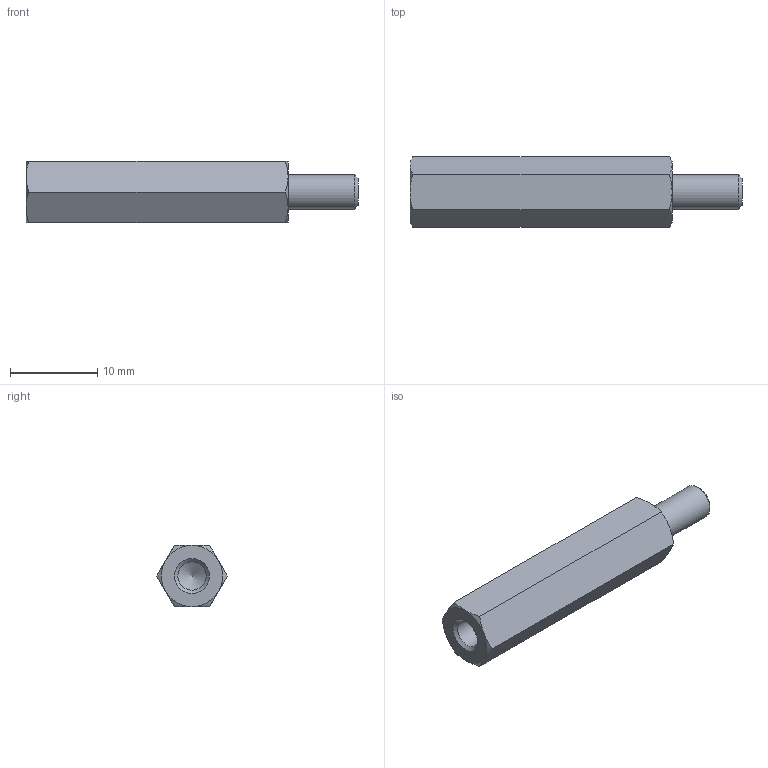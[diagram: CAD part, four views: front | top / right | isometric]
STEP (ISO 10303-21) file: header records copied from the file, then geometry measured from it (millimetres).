
FILE_DESCRIPTION( ( 'STEP AP203' ), '1' );
FILE_NAME( 'C:/Temp/Ganter_Step_05_03_2020/data/3_2/gn6220/gn6220_st/Spacer GN 6220-ST-M4-30-B.stp', '2020-03-13T05:42:40', ( 'License CC BY-ND 4.0' ), ( 'CADENAS' ), ' ', 'PARTsolutions', ' ' );
FILE_SCHEMA( ( 'CONFIG_CONTROL_DESIGN' ) );
Length unit declared in the file: millimetre
Products named in the file (1): _Spacer GN 6220-ST-M4-30-B
Bounding box: 38 x 8.08 x 7 mm (x, y, z)
Volume: 1254.4 mm3; surface area: 1045.3 mm2
Topology: 1 solids, 1 shells, 26 faces, 55 edges, 32 vertices
Faces by surface type: cone 15, plane 9, cylinder 2
Full cylindrical faces by diameter (mm): 3.242 x1, 4 x1
Entity records: 746 total; most frequent: CARTESIAN_POINT 210, DIRECTION 96, ORIENTED_EDGE 96, EDGE_CURVE 48, AXIS2_PLACEMENT_3D 45, EDGE_LOOP 32, VERTEX_POINT 31, FACE_OUTER_BOUND 28
